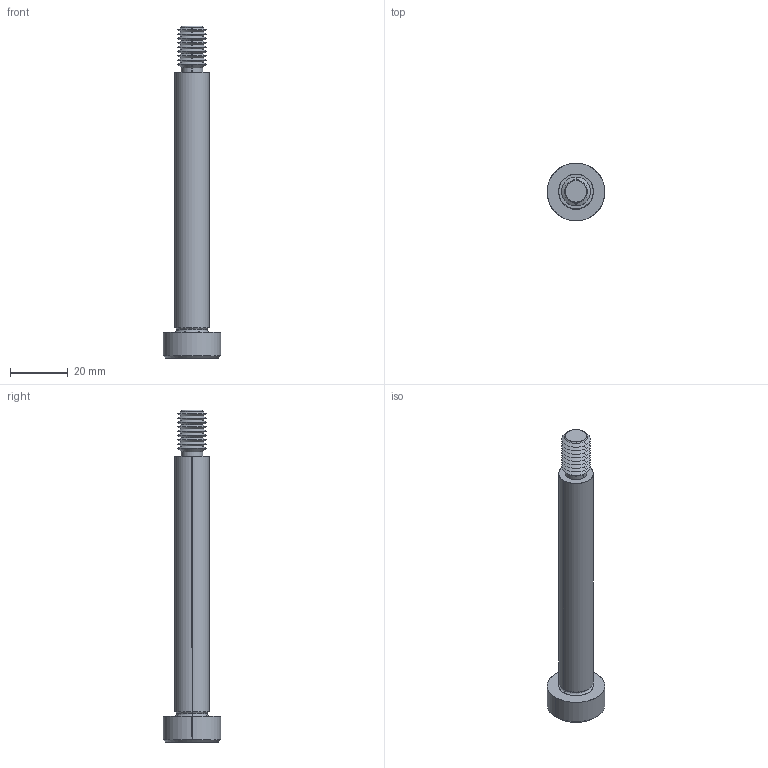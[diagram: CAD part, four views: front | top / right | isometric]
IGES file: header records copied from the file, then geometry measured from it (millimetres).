
Start section: SolidWorks IGES file using analytic representation for surfaces
Global section: file name: C:\Users\IanO\Documents\Temp Folder\GENERAL\SCREW REVISION\P0130_v2\P0130.T5_v2_20220106_IGES\P0130.120-090-T5.igs; native system: SolidWorks 2019; preprocessor: SolidWorks 2019; author: IanO; date: 220106.225205; units: millimetre
Bounding box: 20 x 20 x 115 mm (x, y, z)
Surface area: 5510.1 mm2 (no closed solid volume)
Topology: 0 solids, 0 shells, 76 faces, 564 edges, 562 vertices
Faces by surface type: revolution 56, bspline 20
